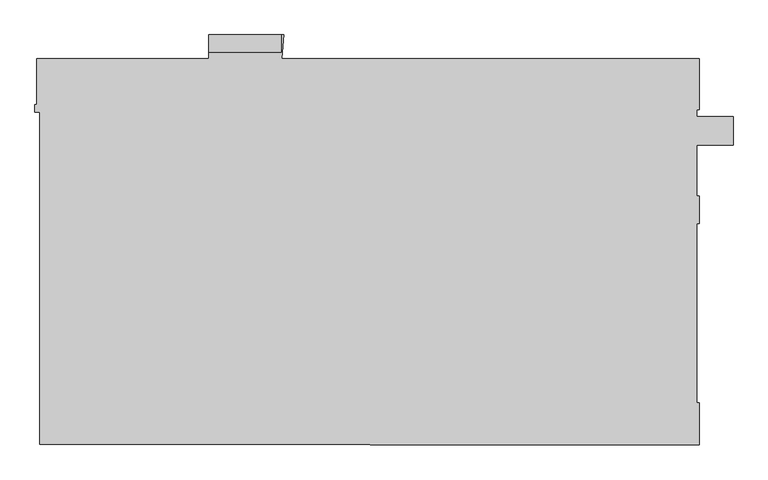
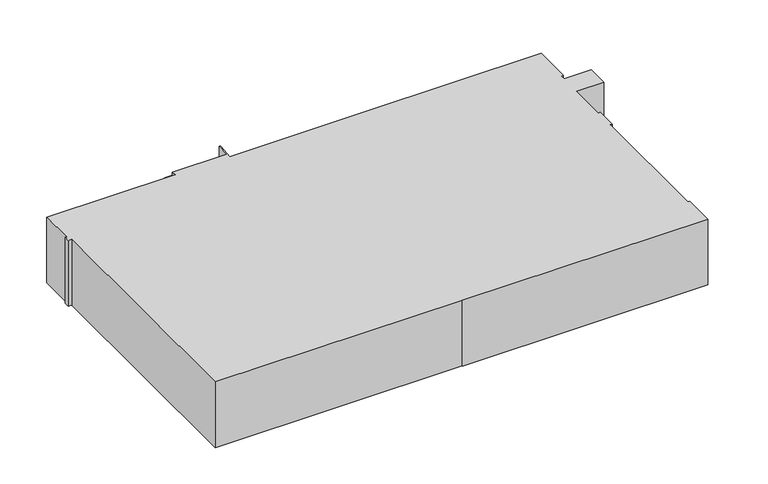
"""IFC4 building model written with IfcOpenShell, lengths in millimetres: proxy geometry."""

from ifc_helpers import new_model, si_unit, origin, place, context, project, spatial, faceted_brep, source, transform, mapped, element, save


def generic_models_d8789075(model_context):
    return source(origin(), model_context, "Body", "Brep", [
        faceted_brep([(-96249.873809, -42255.0027343, 3130.0), (-104269.3218006, -42255.0027343, 3130.0), (-110299.3218006, -42255.0027343, 3130.0), (-110239.3218006, -41455.0027343, 3130.0), (-110299.3218005, -41455.0027343, 3130.0), (-110299.3218006, -42055.0027343, 3130.0), (-112754.8280797, -42055.0027343, 3130.0), (-112754.8280797, -42255.0027343, 3130.0), (-118538.5057462, -42255.0027343, 3130.0), (-118538.5057462, -43805.0173441, 3130.0), (-118606.5057462, -43805.0173441, 3130.0), (-118606.5057462, -44055.0027343, 3130.0), (-118443.5057462, -44055.0027343, 3130.0), (-118443.5057462, -55245.0173441, 3130.0), (-107318.1674613, -55245.0173441, 3130.0), (-107318.1674613, -55265.0173441, 3130.0), (-96259.873809, -55265.0173441, 3130.0), (-96259.873809, -53845.0027343, 3130.0), (-96349.873809, -53845.0027343, 3130.0), (-96349.873809, -47809.6250688, 3130.0), (-96259.873809, -47809.6250688, 3130.0), (-96259.873809, -46889.6250688, 3130.0), (-96349.873809, -46889.6250688, 3130.0), (-96349.873809, -45165.0027343, 3130.0), (-95119.873809, -45165.0027343, 3130.0), (-95119.873809, -44205.0027343, 3130.0), (-96349.873809, -44205.0027343, 3130.0), (-96349.873809, -43975.0027343, 3130.0), (-96249.873809, -43975.0027343, 3130.0), (-104269.3218006, -42255.0027343, 0.0), (-96249.873809, -42255.0027343, 0.0), (-96249.873809, -43975.0027343, 0.0), (-96349.873809, -43975.0027343, 0.0), (-96349.873809, -44205.0027343, 0.0), (-95119.873809, -44205.0027343, 0.0), (-95119.873809, -45165.0027343, 0.0), (-96349.873809, -45165.0027343, 0.0), (-96349.873809, -46889.6250688, 0.0), (-96259.873809, -46889.6250688, 0.0), (-96259.873809, -47809.6250688, 0.0), (-96349.873809, -47809.6250688, 0.0), (-96349.873809, -53845.0027343, 0.0), (-96259.873809, -53845.0027343, 0.0), (-96259.873809, -55265.0173441, 0.0), (-107318.1674613, -55265.0173441, 0.0), (-107318.1674613, -55245.0173441, 0.0), (-118443.5057462, -55245.0173441, 0.0), (-118443.5057462, -44055.0027343, 0.0), (-118606.5057462, -44055.0027343, 0.0), (-118606.5057462, -43805.0173441, 0.0), (-118538.5057462, -43805.0173441, 0.0), (-118538.5057462, -42255.0027343, 0.0), (-112754.8280797, -42255.0027343, 0.0), (-112754.8280797, -41455.0027343, 0.0), (-110239.3218005, -41455.0027343, 0.0), (-110299.3218005, -42255.0027343, 0.0), (-112754.8280797, -41455.0027343, 2500.0), (-110299.3218005, -41455.0027343, 2500.0), (-112754.8280797, -42055.0027343, 2500.0), (-110299.3218006, -42055.0027343, 2500.0)], [[[0, 1, 2, 3, 4, 5, 6, 7, 8, 9, 10, 11, 12, 13, 14, 15, 16, 17, 18, 19, 20, 21, 22, 23, 24, 25, 26, 27, 28]], [[29, 30, 31, 32, 33, 34, 35, 36, 37, 38, 39, 40, 41, 42, 43, 44, 45, 46, 47, 48, 49, 50, 51, 52, 53, 54, 55]], [[1, 0, 30, 29]], [[2, 1, 29, 55]], [[3, 2, 55, 54]], [[54, 53, 56, 57, 4, 3]], [[53, 52, 7, 6, 58, 56]], [[8, 7, 52, 51]], [[9, 8, 51, 50]], [[10, 9, 50, 49]], [[11, 10, 49, 48]], [[12, 11, 48, 47]], [[13, 12, 47, 46]], [[14, 13, 46, 45]], [[15, 14, 45, 44]], [[16, 15, 44, 43]], [[17, 16, 43, 42]], [[18, 17, 42, 41]], [[19, 18, 41, 40]], [[20, 19, 40, 39]], [[21, 20, 39, 38]], [[22, 21, 38, 37]], [[23, 22, 37, 36]], [[24, 23, 36, 35]], [[25, 24, 35, 34]], [[26, 25, 34, 33]], [[27, 26, 33, 32]], [[28, 27, 32, 31]], [[0, 28, 31, 30]], [[59, 57, 56, 58]], [[59, 58, 6, 5]], [[57, 59, 5, 4]]]),
    ])


if __name__ == "__main__":
    model = new_model("IFC4")
    model_context = context("Model", 3, world=origin())
    ifc_project = project(units=[si_unit("LENGTHUNIT", "METRE", prefix="MILLI")], contexts=[model_context])
    site = spatial("IfcSite", under=ifc_project)
    building = spatial("IfcBuilding", under=site)
    placement = place(None, origin())
    generic_models_shape = generic_models_d8789075(model_context)
    element("IfcBuildingElementProxy", 1, Name="Generic Models", at=placement, inside=building, context=model_context, shape_type="MappedRepresentation", body=[
        mapped(generic_models_shape, transform((0.0, 0.0, 0.0), x_axis=(1.0, 0.0, 0.0), y_axis=(0.0, 1.0, 0.0), z_axis=(0.0, 0.0, 1.0))),
    ])
    save(model, "model.ifc")
